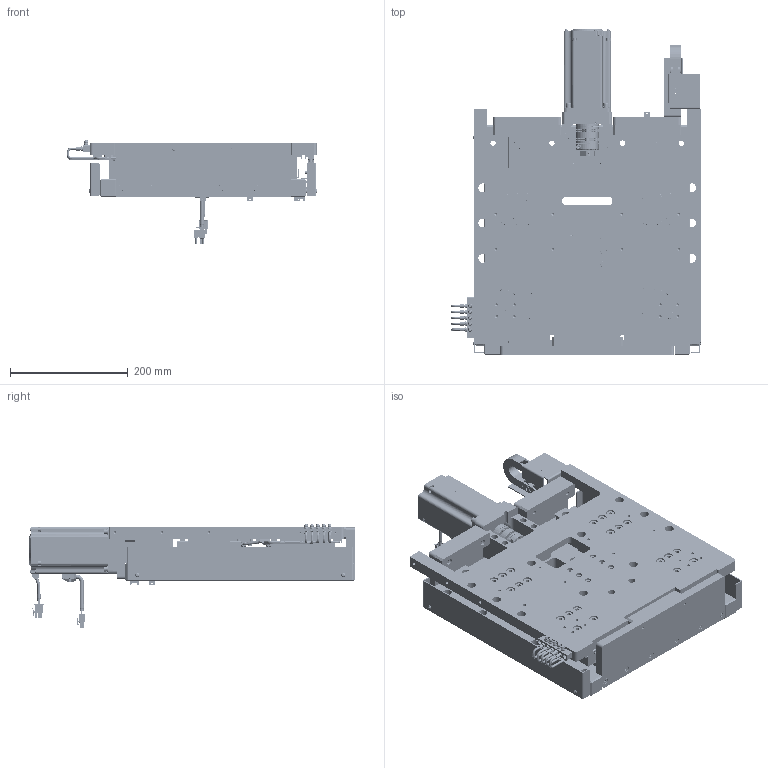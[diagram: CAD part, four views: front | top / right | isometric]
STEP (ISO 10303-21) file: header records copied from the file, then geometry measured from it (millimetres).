
FILE_DESCRIPTION (( 'STEP AP214' ), '1' );
FILE_NAME ('¾í¶Ô¾íZÖáTXAS386-L5-50-P90(20241028).STEP', '2024-10-28T10:24:56', ( '' ), ( '' ), 'SwSTEP 2.0', 'SolidWorks 2020', '' );
FILE_SCHEMA (( 'AUTOMOTIVE_DESIGN' ));
Length unit declared in the file: millimetre
Products named in the file (1): 橙勤橙Z粣TXAS386-L5-50-P90(20241028)
Bounding box: 426.08 x 553.8 x 176.06 mm (x, y, z)
Volume: 8968533.6 mm3; surface area: 1540716.5 mm2
Topology: 245 solids, 245 shells, 11158 faces, 27952 edges, 17765 vertices
Faces by surface type: plane 6340, cylinder 2895, cone 891, torus 822, bspline 144, sphere 66
Entity records: 461460 total; most frequent: CARTESIAN_POINT 64978, DIRECTION 57218, ORIENTED_EDGE 55292, EDGE_CURVE 27646, AXIS2_PLACEMENT_3D 19417, LINE 18384, VECTOR 18384, VERTEX_POINT 17763
